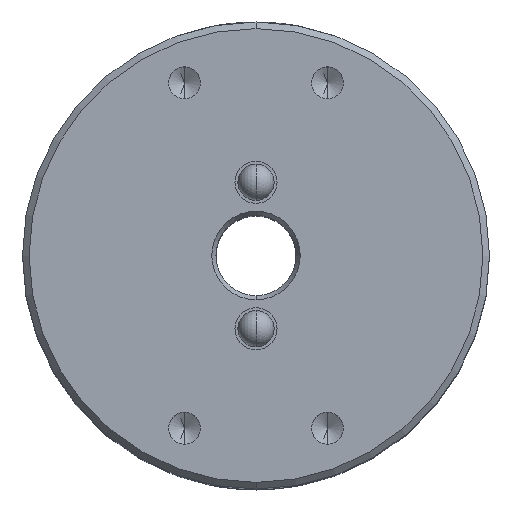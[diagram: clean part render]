
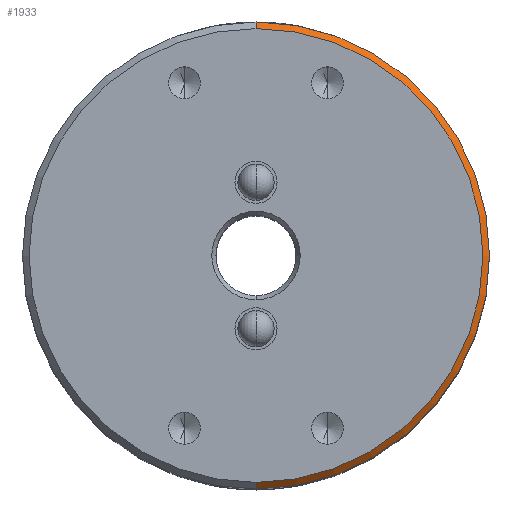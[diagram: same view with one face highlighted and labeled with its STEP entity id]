
A CAD part, top view. The second image highlights one B-rep face of the part: STEP entity #1933.
In plain terms, the highlighted conical face has half-angle 45 degrees and reference radius 27.775 mm.
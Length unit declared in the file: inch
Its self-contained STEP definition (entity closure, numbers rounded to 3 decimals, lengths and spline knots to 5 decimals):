
#200 = ORIENTED_EDGE ( 'NONE', *, *, #1659, .F. ) ;
#203 = ORIENTED_EDGE ( 'NONE', *, *, #1807, .F. ) ;
#204 = ORIENTED_EDGE ( 'NONE', *, *, #1808, .T. ) ;
#206 = ORIENTED_EDGE ( 'NONE', *, *, #1806, .F. ) ;
#498 = EDGE_LOOP ( 'NONE', ( #200, #204, #203, #206 ) ) ;
#976 = DIRECTION ( 'NONE',  ( 0., 0., -1. ) ) ;
#977 = CARTESIAN_POINT ( 'NONE',  ( 0., 2.567, 0. ) ) ;
#978 = FACE_OUTER_BOUND ( 'NONE', #498, .T. ) ;
#979 = DIRECTION ( 'NONE',  ( 0., -1., 0. ) ) ;
#1659 = EDGE_CURVE ( 'NONE', #5866, #5858, #4552, .T. ) ;
#1806 = EDGE_CURVE ( 'NONE', #5858, #5950, #5306, .T. ) ;
#1807 = EDGE_CURVE ( 'NONE', #5950, #5848, #4783, .T. ) ;
#1808 = EDGE_CURVE ( 'NONE', #5866, #5848, #5315, .T. ) ;
#1933 = ADVANCED_FACE ( 'NONE', ( #978 ), #5028, .T. ) ;
#2844 = DIRECTION ( 'NONE',  ( 0., 0., 1. ) ) ;
#2845 = DIRECTION ( 'NONE',  ( 0., 1., 0. ) ) ;
#2846 = CARTESIAN_POINT ( 'NONE',  ( 0., 2.598, 0. ) ) ;
#4384 = VECTOR ( 'NONE', #5310, 39.37008 ) ;
#4552 = CIRCLE ( 'NONE', #4554, 1.0625 ) ;
#4554 = AXIS2_PLACEMENT_3D ( 'NONE', #2846, #2845, #2844 ) ;
#4689 = AXIS2_PLACEMENT_3D ( 'NONE', #977, #979, #976 ) ;
#4783 = CIRCLE ( 'NONE', #4790, 1.0935 ) ;
#4784 = VECTOR ( 'NONE', #5317, 39.37008 ) ;
#4790 = AXIS2_PLACEMENT_3D ( 'NONE', #5357, #5362, #5361 ) ;
#5028 = CONICAL_SURFACE ( 'NONE', #4689, 1.0935, 0.785 ) ;
#5250 = CARTESIAN_POINT ( 'NONE',  ( 0., 2.567, -1.0935 ) ) ;
#5306 = LINE ( 'NONE', #5250, #4384 ) ;
#5310 = DIRECTION ( 'NONE',  ( 0., -0.707, -0.707 ) ) ;
#5312 = CARTESIAN_POINT ( 'NONE',  ( 0., 2.567, 1.0935 ) ) ;
#5315 = LINE ( 'NONE', #5312, #4784 ) ;
#5317 = DIRECTION ( 'NONE',  ( 0., -0.707, 0.707 ) ) ;
#5357 = CARTESIAN_POINT ( 'NONE',  ( 0., 2.567, 0. ) ) ;
#5361 = DIRECTION ( 'NONE',  ( 0., 0., 1. ) ) ;
#5362 = DIRECTION ( 'NONE',  ( 0., -1., 0. ) ) ;
#5848 = VERTEX_POINT ( 'NONE', #6307 ) ;
#5858 = VERTEX_POINT ( 'NONE', #6316 ) ;
#5866 = VERTEX_POINT ( 'NONE', #6322 ) ;
#5950 = VERTEX_POINT ( 'NONE', #6393 ) ;
#6307 = CARTESIAN_POINT ( 'NONE',  ( 0., 2.567, 1.0935 ) ) ;
#6316 = CARTESIAN_POINT ( 'NONE',  ( 0., 2.598, -1.0625 ) ) ;
#6322 = CARTESIAN_POINT ( 'NONE',  ( 0., 2.598, 1.0625 ) ) ;
#6393 = CARTESIAN_POINT ( 'NONE',  ( 0., 2.567, -1.0935 ) ) ;
